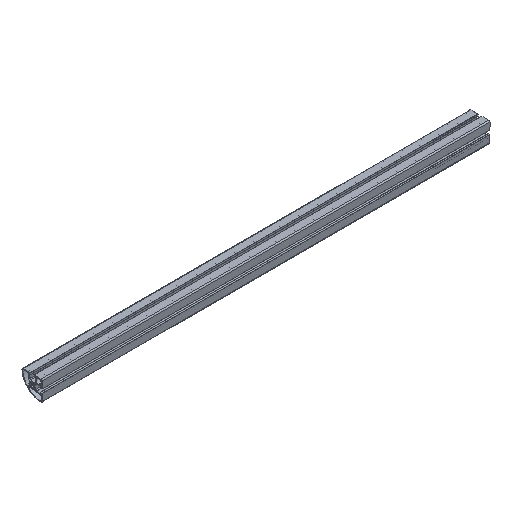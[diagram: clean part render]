
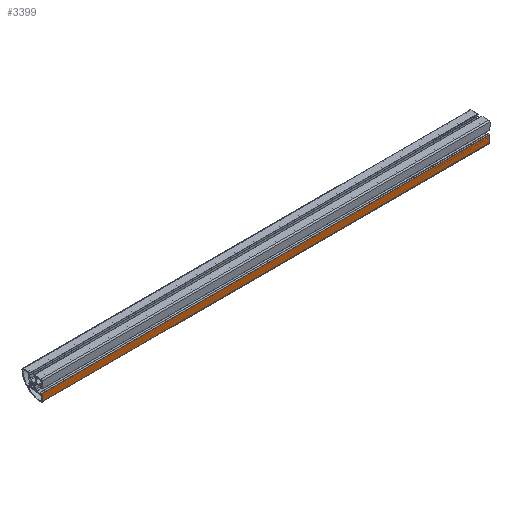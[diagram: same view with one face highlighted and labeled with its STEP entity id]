
A CAD part, isometric view. The second image highlights one B-rep face of the part: STEP entity #3399.
In plain terms, the highlighted planar face has unit normal (0, -1, 0).
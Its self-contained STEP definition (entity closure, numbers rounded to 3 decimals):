
#96 = EDGE_CURVE ( 'NONE', #1720, #2672, #359, .T. ) ;
#252 = DIRECTION ( 'NONE',  ( -1., 0., 0. ) ) ;
#359 = LINE ( 'NONE', #2826, #732 ) ;
#568 = DIRECTION ( 'NONE',  ( 0., 0., -1. ) ) ;
#732 = VECTOR ( 'NONE', #1456, 1000. ) ;
#843 = LINE ( 'NONE', #1945, #1812 ) ;
#877 = EDGE_CURVE ( 'NONE', #2672, #2327, #1607, .T. ) ;
#965 = DIRECTION ( 'NONE',  ( 0., 1., 0. ) ) ;
#983 = CARTESIAN_POINT ( 'NONE',  ( 1000., -22.5, -4.4 ) ) ;
#1001 = PLANE ( 'NONE',  #2140 ) ;
#1232 = FACE_OUTER_BOUND ( 'NONE', #3041, .T. ) ;
#1322 = CARTESIAN_POINT ( 'NONE',  ( 0., -22.5, -4.4 ) ) ;
#1351 = ORIENTED_EDGE ( 'NONE', *, *, #1419, .T. ) ;
#1419 = EDGE_CURVE ( 'NONE', #1720, #1700, #1964, .T. ) ;
#1456 = DIRECTION ( 'NONE',  ( 0., 0., -1. ) ) ;
#1586 = ORIENTED_EDGE ( 'NONE', *, *, #96, .F. ) ;
#1607 = LINE ( 'NONE', #2729, #3463 ) ;
#1676 = CARTESIAN_POINT ( 'NONE',  ( 1000., -22.5, -4.4 ) ) ;
#1700 = VERTEX_POINT ( 'NONE', #1322 ) ;
#1720 = VERTEX_POINT ( 'NONE', #1848 ) ;
#1770 = ORIENTED_EDGE ( 'NONE', *, *, #2626, .T. ) ;
#1812 = VECTOR ( 'NONE', #568, 1000. ) ;
#1848 = CARTESIAN_POINT ( 'NONE',  ( 1000., -22.5, -4.4 ) ) ;
#1945 = CARTESIAN_POINT ( 'NONE',  ( 0., -22.5, -4.4 ) ) ;
#1964 = LINE ( 'NONE', #1676, #2083 ) ;
#2083 = VECTOR ( 'NONE', #2853, 1000. ) ;
#2140 = AXIS2_PLACEMENT_3D ( 'NONE', #983, #965, #3195 ) ;
#2260 = ORIENTED_EDGE ( 'NONE', *, *, #877, .F. ) ;
#2327 = VERTEX_POINT ( 'NONE', #3354 ) ;
#2626 = EDGE_CURVE ( 'NONE', #1700, #2327, #843, .T. ) ;
#2672 = VERTEX_POINT ( 'NONE', #3513 ) ;
#2729 = CARTESIAN_POINT ( 'NONE',  ( 1000., -22.5, -20. ) ) ;
#2826 = CARTESIAN_POINT ( 'NONE',  ( 1000., -22.5, -4.4 ) ) ;
#2853 = DIRECTION ( 'NONE',  ( -1., 0., 0. ) ) ;
#3041 = EDGE_LOOP ( 'NONE', ( #1770, #2260, #1586, #1351 ) ) ;
#3195 = DIRECTION ( 'NONE',  ( 0., 0., 1. ) ) ;
#3354 = CARTESIAN_POINT ( 'NONE',  ( 0., -22.5, -20. ) ) ;
#3399 = ADVANCED_FACE ( 'NONE', ( #1232 ), #1001, .F. ) ;
#3463 = VECTOR ( 'NONE', #252, 1000. ) ;
#3513 = CARTESIAN_POINT ( 'NONE',  ( 1000., -22.5, -20. ) ) ;
